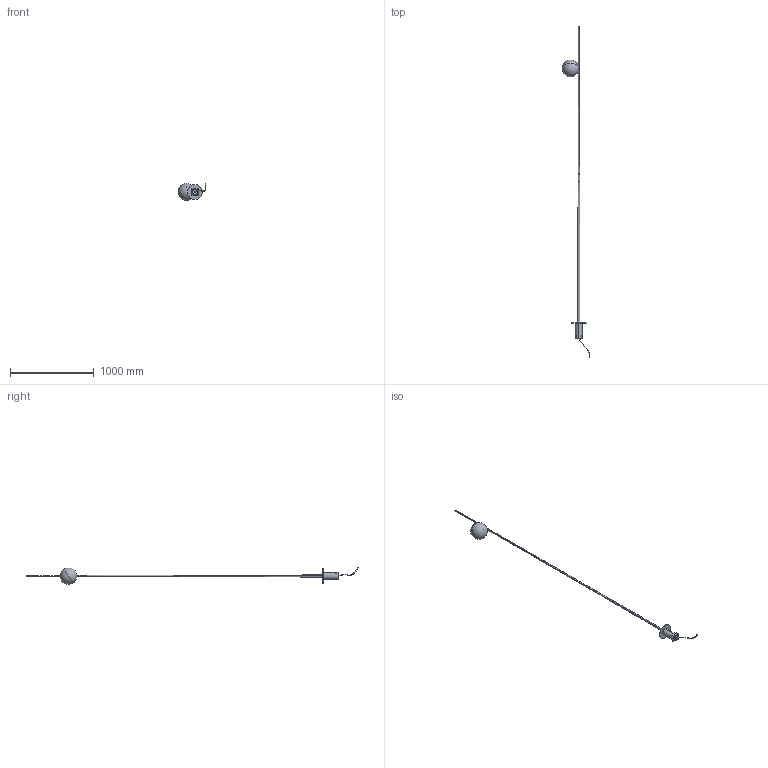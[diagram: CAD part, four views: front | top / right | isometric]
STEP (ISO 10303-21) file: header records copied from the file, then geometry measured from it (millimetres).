
FILE_DESCRIPTION (( 'STEP AP203' ), '1' );
FILE_NAME ('HP302GBEXT.step', '2023-02-16T13:59:23', ( '' ), ( '' ), 'SwSTEP 2.0', 'SolidWorks 2019', '' );
FILE_SCHEMA (( 'CONFIG_CONTROL_DESIGN' ));
Length unit declared in the file: millimetre
Products named in the file (11): PR23MU02-E; PR23MU02-Attacco a terra; Copia di cavo^HP302GBEXT; PR23MU02-F; HP302GBEXT; 10CP211AZ  tubo MAT attacco a terra - Nilo; 10CP211NZ  piastra MAT - attacco a terra - Nilo; PR23MU02-L1; PR23MU02-G; PR23MU02-L7; PR23MU02-D2
Assembly tree (10 placements, depth 2):
  HP302GBEXT
    PR23MU02-Attacco a terra
    PR23MU02-L1
    PR23MU02-L7
    PR23MU02-D2
    PR23MU02-E
    PR23MU02-F
    PR23MU02-G
    10CP211AZ  tubo MAT attacco a terra - Nilo
    10CP211NZ  piastra MAT - attacco a terra - Nilo
    Copia di cavo^HP302GBEXT
Bounding box: 330.83 x 3962.79 x 199.93 mm (x, y, z)
Volume: 961377.4 mm3; surface area: 794982.6 mm2
Topology: 10 solids, 10 shells, 222 faces, 553 edges, 340 vertices
Faces by surface type: cylinder 105, plane 59, cone 32, bspline 10, sphere 8, torus 8
Entity records: 10481 total; most frequent: CARTESIAN_POINT 4218, DIRECTION 1096, ORIENTED_EDGE 1046, EDGE_CURVE 523, AXIS2_PLACEMENT_3D 443, VERTEX_POINT 332, EDGE_LOOP 261, FACE_OUTER_BOUND 222
